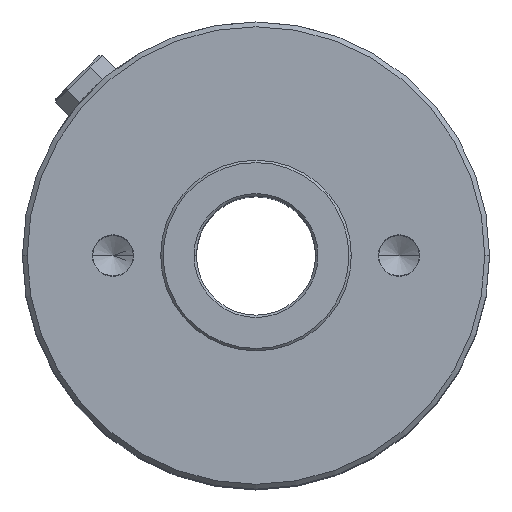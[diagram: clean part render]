
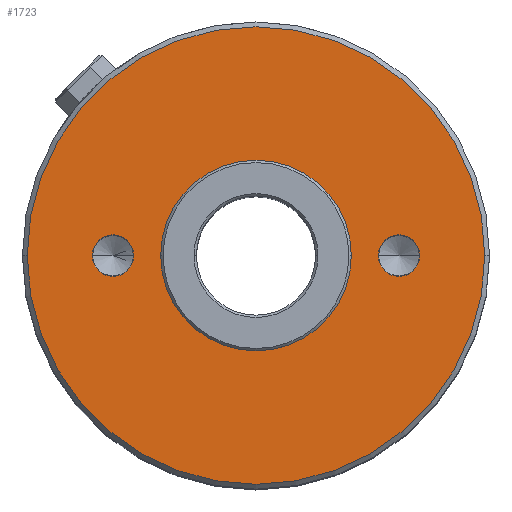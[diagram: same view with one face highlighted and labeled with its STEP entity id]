
A CAD part, top view. The second image highlights one B-rep face of the part: STEP entity #1723.
In plain terms, the highlighted planar face has unit normal (0, 0, 1).
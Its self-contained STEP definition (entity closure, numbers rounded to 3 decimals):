
#118 = AXIS2_PLACEMENT_3D ( 'NONE', #2003, #1935, #970 ) ;
#144 = FACE_BOUND ( 'NONE', #505, .T. ) ;
#148 = CIRCLE ( 'NONE', #118, 48. ) ;
#233 = DIRECTION ( 'NONE',  ( 0., 0., 1. ) ) ;
#240 = CARTESIAN_POINT ( 'NONE',  ( 48., 0., 110. ) ) ;
#272 = DIRECTION ( 'NONE',  ( 1., 0., 0. ) ) ;
#276 = VERTEX_POINT ( 'NONE', #1398 ) ;
#307 = EDGE_CURVE ( 'NONE', #510, #276, #404, .T. ) ;
#323 = CIRCLE ( 'NONE', #839, 4.35 ) ;
#344 = FACE_OUTER_BOUND ( 'NONE', #1543, .T. ) ;
#351 = EDGE_CURVE ( 'NONE', #1781, #841, #401, .T. ) ;
#401 = CIRCLE ( 'NONE', #1136, 4.35 ) ;
#403 = DIRECTION ( 'NONE',  ( 0., 0., 1. ) ) ;
#404 = CIRCLE ( 'NONE', #899, 4.35 ) ;
#430 = PLANE ( 'NONE',  #875 ) ;
#478 = DIRECTION ( 'NONE',  ( 1., 0., 0. ) ) ;
#505 = EDGE_LOOP ( 'NONE', ( #1983, #1722 ) ) ;
#510 = VERTEX_POINT ( 'NONE', #1108 ) ;
#541 = VERTEX_POINT ( 'NONE', #2089 ) ;
#613 = CARTESIAN_POINT ( 'NONE',  ( -34.35, 0., 110. ) ) ;
#629 = FACE_BOUND ( 'NONE', #1341, .T. ) ;
#656 = EDGE_CURVE ( 'NONE', #541, #828, #1819, .T. ) ;
#679 = CIRCLE ( 'NONE', #1742, 4.35 ) ;
#723 = CIRCLE ( 'NONE', #1524, 48. ) ;
#726 = CARTESIAN_POINT ( 'NONE',  ( -25.65, 0., 110. ) ) ;
#756 = EDGE_CURVE ( 'NONE', #1019, #1649, #148, .T. ) ;
#760 = DIRECTION ( 'NONE',  ( 0., 0., -1. ) ) ;
#784 = CARTESIAN_POINT ( 'NONE',  ( -48., 0., 110. ) ) ;
#815 = ORIENTED_EDGE ( 'NONE', *, *, #1018, .T. ) ;
#825 = CARTESIAN_POINT ( 'NONE',  ( 0., 0., 110. ) ) ;
#828 = VERTEX_POINT ( 'NONE', #1449 ) ;
#830 = ORIENTED_EDGE ( 'NONE', *, *, #656, .F. ) ;
#839 = AXIS2_PLACEMENT_3D ( 'NONE', #1553, #908, #1259 ) ;
#841 = VERTEX_POINT ( 'NONE', #613 ) ;
#868 = ORIENTED_EDGE ( 'NONE', *, *, #1385, .F. ) ;
#875 = AXIS2_PLACEMENT_3D ( 'NONE', #972, #1564, #2092 ) ;
#877 = DIRECTION ( 'NONE',  ( 0., 0., -1. ) ) ;
#899 = AXIS2_PLACEMENT_3D ( 'NONE', #1982, #760, #1986 ) ;
#908 = DIRECTION ( 'NONE',  ( 0., 0., -1. ) ) ;
#970 = DIRECTION ( 'NONE',  ( 1., 0., 0. ) ) ;
#972 = CARTESIAN_POINT ( 'NONE',  ( 0., 0., 110. ) ) ;
#1018 = EDGE_CURVE ( 'NONE', #1649, #1019, #723, .T. ) ;
#1019 = VERTEX_POINT ( 'NONE', #240 ) ;
#1077 = AXIS2_PLACEMENT_3D ( 'NONE', #1432, #1685, #1996 ) ;
#1108 = CARTESIAN_POINT ( 'NONE',  ( 34.35, 0., 110. ) ) ;
#1136 = AXIS2_PLACEMENT_3D ( 'NONE', #1187, #877, #1405 ) ;
#1137 = EDGE_CURVE ( 'NONE', #276, #510, #679, .T. ) ;
#1143 = ORIENTED_EDGE ( 'NONE', *, *, #756, .T. ) ;
#1166 = ORIENTED_EDGE ( 'NONE', *, *, #307, .T. ) ;
#1187 = CARTESIAN_POINT ( 'NONE',  ( -30., 0., 110. ) ) ;
#1259 = DIRECTION ( 'NONE',  ( 1., 0., 0. ) ) ;
#1278 = CIRCLE ( 'NONE', #1077, 20. ) ;
#1305 = CARTESIAN_POINT ( 'NONE',  ( 0., 0., 110. ) ) ;
#1338 = EDGE_CURVE ( 'NONE', #841, #1781, #323, .T. ) ;
#1341 = EDGE_LOOP ( 'NONE', ( #1166, #1888 ) ) ;
#1385 = EDGE_CURVE ( 'NONE', #828, #541, #1278, .T. ) ;
#1398 = CARTESIAN_POINT ( 'NONE',  ( 25.65, 0., 110. ) ) ;
#1405 = DIRECTION ( 'NONE',  ( 1., 0., 0. ) ) ;
#1432 = CARTESIAN_POINT ( 'NONE',  ( 0., 0., 110. ) ) ;
#1449 = CARTESIAN_POINT ( 'NONE',  ( -20., 0., 110. ) ) ;
#1505 = CARTESIAN_POINT ( 'NONE',  ( 30., 0., 110. ) ) ;
#1514 = DIRECTION ( 'NONE',  ( 1., 0., 0. ) ) ;
#1524 = AXIS2_PLACEMENT_3D ( 'NONE', #825, #233, #272 ) ;
#1533 = DIRECTION ( 'NONE',  ( 0., 0., -1. ) ) ;
#1543 = EDGE_LOOP ( 'NONE', ( #815, #1143 ) ) ;
#1553 = CARTESIAN_POINT ( 'NONE',  ( -30., 0., 110. ) ) ;
#1564 = DIRECTION ( 'NONE',  ( 0., 0., 1. ) ) ;
#1649 = VERTEX_POINT ( 'NONE', #784 ) ;
#1685 = DIRECTION ( 'NONE',  ( 0., 0., 1. ) ) ;
#1722 = ORIENTED_EDGE ( 'NONE', *, *, #1338, .T. ) ;
#1723 = ADVANCED_FACE ( 'NONE', ( #344, #629, #144, #1976 ), #430, .T. ) ;
#1742 = AXIS2_PLACEMENT_3D ( 'NONE', #1505, #1533, #1514 ) ;
#1779 = EDGE_LOOP ( 'NONE', ( #868, #830 ) ) ;
#1781 = VERTEX_POINT ( 'NONE', #726 ) ;
#1819 = CIRCLE ( 'NONE', #1866, 20. ) ;
#1866 = AXIS2_PLACEMENT_3D ( 'NONE', #1305, #403, #478 ) ;
#1888 = ORIENTED_EDGE ( 'NONE', *, *, #1137, .T. ) ;
#1935 = DIRECTION ( 'NONE',  ( 0., 0., 1. ) ) ;
#1976 = FACE_BOUND ( 'NONE', #1779, .T. ) ;
#1982 = CARTESIAN_POINT ( 'NONE',  ( 30., 0., 110. ) ) ;
#1983 = ORIENTED_EDGE ( 'NONE', *, *, #351, .T. ) ;
#1986 = DIRECTION ( 'NONE',  ( 1., 0., 0. ) ) ;
#1996 = DIRECTION ( 'NONE',  ( 1., 0., 0. ) ) ;
#2003 = CARTESIAN_POINT ( 'NONE',  ( 0., 0., 110. ) ) ;
#2089 = CARTESIAN_POINT ( 'NONE',  ( 20., 0., 110. ) ) ;
#2092 = DIRECTION ( 'NONE',  ( 1., 0., 0. ) ) ;
